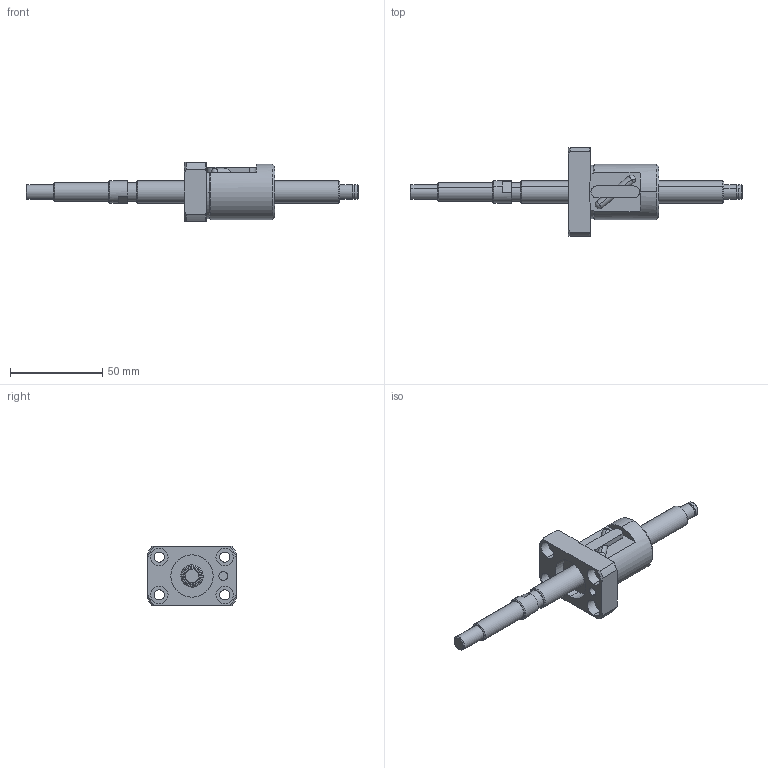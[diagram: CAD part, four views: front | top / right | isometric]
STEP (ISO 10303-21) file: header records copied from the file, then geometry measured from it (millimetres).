
FILE_DESCRIPTION (( 'STEP AP203' ), '1' );
FILE_NAME ('TS1210 assy_20160716.STEP', '2016-07-16T04:51:42', ( 'user' ), ( 'Hewlett-Packard Company' ), 'SwSTEP 2.0', 'SolidWorks 2014', '' );
FILE_SCHEMA (( 'CONFIG_CONTROL_DESIGN' ));
Length unit declared in the file: millimetre
Products named in the file (3): TS1210 nut; TS1210 screw; TS1210 assy_20160716
Assembly tree (2 placements, depth 2):
  TS1210 assy_20160716
    TS1210 screw
    TS1210 nut
Bounding box: 180 x 48 x 32 mm (x, y, z)
Volume: 49001.5 mm3; surface area: 18186.9 mm2
Topology: 2 solids, 2 shells, 122 faces, 292 edges, 187 vertices
Faces by surface type: cylinder 56, plane 35, cone 28, sphere 3
Entity records: 3899 total; most frequent: CARTESIAN_POINT 678, DIRECTION 664, ORIENTED_EDGE 576, EDGE_CURVE 288, AXIS2_PLACEMENT_3D 275, VERTEX_POINT 185, CIRCLE 148, EDGE_LOOP 147
